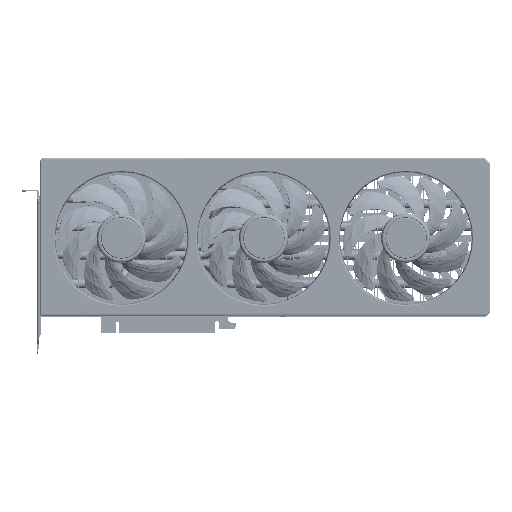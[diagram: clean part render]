
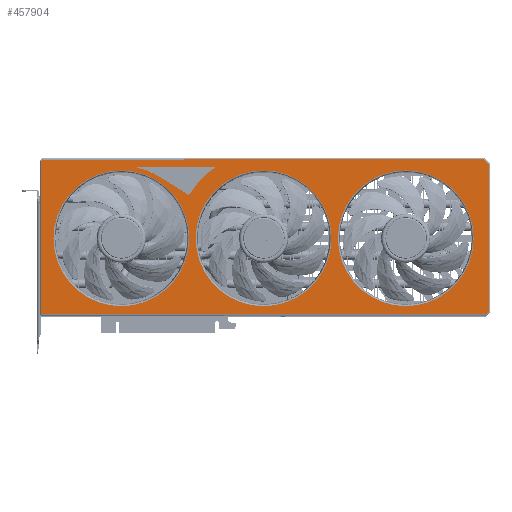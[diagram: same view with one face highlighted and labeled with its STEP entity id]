
A CAD part, top view. The second image highlights one B-rep face of the part: STEP entity #457904.
In plain terms, the highlighted planar face has unit normal (0, 0, 1).
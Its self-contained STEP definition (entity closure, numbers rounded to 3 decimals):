
#445195=DIRECTION('',(0.,1.,0.));
#445196=VECTOR('',#445195,324.994);
#445197=CARTESIAN_POINT('',(-58.2,-162.497,33.7));
#445198=LINE('',#445197,#445196);
#445202=DIRECTION('',(-0.707,-0.707,0.));
#445203=VECTOR('',#445202,5.237);
#445204=CARTESIAN_POINT('',(-54.497,166.2,33.7));
#445205=LINE('',#445204,#445203);
#445209=DIRECTION('',(-1.,0.,0.));
#445210=VECTOR('',#445209,108.994);
#445211=CARTESIAN_POINT('',(54.497,166.2,33.7));
#445212=LINE('',#445211,#445210);
#445216=DIRECTION('',(-0.707,0.707,0.));
#445217=VECTOR('',#445216,2.125);
#445218=CARTESIAN_POINT('',(56.,164.697,33.7));
#445219=LINE('',#445218,#445217);
#445223=DIRECTION('',(0.,1.,0.));
#445224=VECTOR('',#445223,328.697);
#445225=CARTESIAN_POINT('',(56.,-164.,33.7));
#445226=LINE('',#445225,#445224);
#445230=DIRECTION('',(1.,0.,0.));
#445231=VECTOR('',#445230,112.697);
#445232=CARTESIAN_POINT('',(-56.697,-164.,33.7));
#445233=LINE('',#445232,#445231);
#445237=DIRECTION('',(0.707,-0.707,0.));
#445238=VECTOR('',#445237,2.125);
#445239=CARTESIAN_POINT('',(-58.2,-162.497,33.7));
#445240=LINE('',#445239,#445238);
#445244=CARTESIAN_POINT('',(0.,-105.,33.7));
#445245=DIRECTION('',(0.,0.,-1.));
#445246=DIRECTION('',(-1.,0.,0.));
#445247=AXIS2_PLACEMENT_3D('',#445244,#445245,#445246);
#445252=CARTESIAN_POINT('',(0.,-105.,33.7));
#445253=DIRECTION('',(0.,0.,-1.));
#445254=DIRECTION('',(1.,0.,0.));
#445255=AXIS2_PLACEMENT_3D('',#445252,#445253,#445254);
#445260=CARTESIAN_POINT('',(0.,0.,33.7));
#445261=DIRECTION('',(0.,0.,-1.));
#445262=DIRECTION('',(-1.,0.,0.));
#445263=AXIS2_PLACEMENT_3D('',#445260,#445261,#445262);
#445268=CARTESIAN_POINT('',(0.,0.,33.7));
#445269=DIRECTION('',(0.,0.,-1.));
#445270=DIRECTION('',(1.,0.,0.));
#445271=AXIS2_PLACEMENT_3D('',#445268,#445269,#445270);
#445276=CARTESIAN_POINT('',(0.,105.,33.7));
#445277=DIRECTION('',(0.,0.,-1.));
#445278=DIRECTION('',(1.,0.,0.));
#445279=AXIS2_PLACEMENT_3D('',#445276,#445277,#445278);
#445284=CARTESIAN_POINT('',(0.,105.,33.7));
#445285=DIRECTION('',(0.,0.,-1.));
#445286=DIRECTION('',(-1.,0.,0.));
#445287=AXIS2_PLACEMENT_3D('',#445284,#445285,#445286);
#445292=CARTESIAN_POINT('',(-33.048,-55.267,33.7));
#445293=DIRECTION('',(0.,0.,-1.));
#445294=DIRECTION('',(0.513,0.858,0.));
#445295=AXIS2_PLACEMENT_3D('',#445292,#445293,#445294);
#456105=DIRECTION('',(0.,1.,0.));
#456106=VECTOR('',#456105,57.291);
#456107=CARTESIAN_POINT('',(-52.85,-93.47,33.7));
#456108=LINE('',#456107,#456106);
#456126=CARTESIAN_POINT('',(-52.55,-93.47,
33.7));
#456127=DIRECTION('',(0.,0.,-1.));
#456128=DIRECTION('',(0.977,-0.214,0.));
#456129=AXIS2_PLACEMENT_3D('',#456126,#456127,#456128);
#456164=CARTESIAN_POINT('',(0.,-105.,33.7));
#456165=DIRECTION('',(0.,0.,1.));
#456166=DIRECTION('',(-0.848,0.53,0.));
#456167=AXIS2_PLACEMENT_3D('',#456164,#456165,#456166);
#456172=DIRECTION('',(-0.53,-0.848,0.));
#456173=VECTOR('',#456172,24.633);
#456174=CARTESIAN_POINT('',(-32.29,-55.742,33.7));
#456175=LINE('',#456174,#456173);
#456207=CARTESIAN_POINT('',(0.,0.,33.7));
#456208=DIRECTION('',(0.,0.,1.));
#456209=DIRECTION('',(-0.824,-0.567,0.));
#456210=AXIS2_PLACEMENT_3D('',#456207,#456208,#456209);
#456231=CARTESIAN_POINT('',(-52.55,-36.179,
33.7));
#456232=DIRECTION('',(0.,0.,-1.));
#456233=DIRECTION('',(-1.,0.,0.));
#456234=AXIS2_PLACEMENT_3D('',#456231,#456232,#456233);
#456432=CARTESIAN_POINT('',(-32.589,-54.5,33.7));
#456433=CARTESIAN_POINT('',(-32.29,-55.742,33.7));
#456434=VERTEX_POINT('',#456432);
#456435=VERTEX_POINT('',#456433);
#456441=CARTESIAN_POINT('',(-45.355,-76.624,33.7));
#456443=VERTEX_POINT('',#456441);
#457396=CARTESIAN_POINT('',(-54.497,166.2,33.7));
#457397=CARTESIAN_POINT('',(-58.2,162.497,33.7));
#457398=VERTEX_POINT('',#457396);
#457399=VERTEX_POINT('',#457397);
#457404=CARTESIAN_POINT('',(54.497,166.2,33.7));
#457405=VERTEX_POINT('',#457404);
#457410=CARTESIAN_POINT('',(56.,164.697,33.7));
#457411=VERTEX_POINT('',#457410);
#457416=CARTESIAN_POINT('',(56.,-164.,33.7));
#457417=VERTEX_POINT('',#457416);
#457422=CARTESIAN_POINT('',(-56.697,-164.,33.7));
#457423=VERTEX_POINT('',#457422);
#457428=CARTESIAN_POINT('',(-58.2,-162.497,33.7));
#457429=VERTEX_POINT('',#457428);
#457434=CARTESIAN_POINT('',(-50.133,-105.,33.7));
#457435=CARTESIAN_POINT('',(50.133,-105.,33.7));
#457436=VERTEX_POINT('',#457434);
#457437=VERTEX_POINT('',#457435);
#457442=CARTESIAN_POINT('',(-50.133,0.,33.7));
#457443=CARTESIAN_POINT('',(50.133,0.,33.7));
#457444=VERTEX_POINT('',#457442);
#457445=VERTEX_POINT('',#457443);
#457450=CARTESIAN_POINT('',(50.133,105.,33.7));
#457451=CARTESIAN_POINT('',(-50.133,105.,33.7));
#457452=VERTEX_POINT('',#457450);
#457453=VERTEX_POINT('',#457451);
#457521=CARTESIAN_POINT('',(-52.257,-93.534,33.7));
#457523=VERTEX_POINT('',#457521);
#457525=CARTESIAN_POINT('',(-52.85,-93.47,33.7));
#457527=VERTEX_POINT('',#457525);
#457530=CARTESIAN_POINT('',(-52.303,-36.009,33.7));
#457532=VERTEX_POINT('',#457530);
#457534=CARTESIAN_POINT('',(-52.85,-36.179,33.7));
#457536=VERTEX_POINT('',#457534);
#457849=CARTESIAN_POINT('',(-57.,-165.,33.7));
#457850=DIRECTION('',(0.,0.,1.));
#457851=DIRECTION('',(0.,1.,0.));
#457852=AXIS2_PLACEMENT_3D('',#457849,#457850,#457851);
#457853=PLANE('',#457852);
#457855=ORIENTED_EDGE('',*,*,#457854,.T.);
#457857=ORIENTED_EDGE('',*,*,#457856,.F.);
#457859=ORIENTED_EDGE('',*,*,#457858,.F.);
#457861=ORIENTED_EDGE('',*,*,#457860,.F.);
#457863=ORIENTED_EDGE('',*,*,#457862,.F.);
#457865=ORIENTED_EDGE('',*,*,#457864,.F.);
#457867=ORIENTED_EDGE('',*,*,#457866,.F.);
#457868=EDGE_LOOP('',(#457855,#457857,#457859,#457861,#457863,#457865,#457867));
#457869=FACE_OUTER_BOUND('',#457868,.F.);
#457871=ORIENTED_EDGE('',*,*,#457870,.F.);
#457873=ORIENTED_EDGE('',*,*,#457872,.F.);
#457874=EDGE_LOOP('',(#457871,#457873));
#457875=FACE_BOUND('',#457874,.F.);
#457877=ORIENTED_EDGE('',*,*,#457876,.F.);
#457879=ORIENTED_EDGE('',*,*,#457878,.F.);
#457880=EDGE_LOOP('',(#457877,#457879));
#457881=FACE_BOUND('',#457880,.F.);
#457883=ORIENTED_EDGE('',*,*,#457882,.F.);
#457885=ORIENTED_EDGE('',*,*,#457884,.F.);
#457886=EDGE_LOOP('',(#457883,#457885));
#457887=FACE_BOUND('',#457886,.F.);
#457889=ORIENTED_EDGE('',*,*,#457888,.F.);
#457891=ORIENTED_EDGE('',*,*,#457890,.F.);
#457893=ORIENTED_EDGE('',*,*,#457892,.F.);
#457895=ORIENTED_EDGE('',*,*,#457894,.F.);
#457897=ORIENTED_EDGE('',*,*,#457896,.F.);
#457899=ORIENTED_EDGE('',*,*,#457898,.F.);
#457901=ORIENTED_EDGE('',*,*,#457900,.F.);
#457902=EDGE_LOOP('',(#457889,#457891,#457893,#457895,#457897,#457899,#457901));
#457903=FACE_BOUND('',#457902,.F.);
#445248=CIRCLE('',#445247,50.133);
#445256=CIRCLE('',#445255,50.133);
#445264=CIRCLE('',#445263,50.133);
#445272=CIRCLE('',#445271,50.133);
#445280=CIRCLE('',#445279,50.133);
#445288=CIRCLE('',#445287,50.133);
#445296=CIRCLE('',#445295,0.894);
#456130=CIRCLE('',#456129,0.3);
#456168=CIRCLE('',#456167,53.5);
#456211=CIRCLE('',#456210,63.5);
#456235=CIRCLE('',#456234,0.3);
#457854=EDGE_CURVE('',#457429,#457399,#445198,.T.);
#457856=EDGE_CURVE('',#457398,#457399,#445205,.T.);
#457858=EDGE_CURVE('',#457405,#457398,#445212,.T.);
#457860=EDGE_CURVE('',#457411,#457405,#445219,.T.);
#457862=EDGE_CURVE('',#457417,#457411,#445226,.T.);
#457864=EDGE_CURVE('',#457423,#457417,#445233,.T.);
#457866=EDGE_CURVE('',#457429,#457423,#445240,.T.);
#457870=EDGE_CURVE('',#457436,#457437,#445248,.T.);
#457872=EDGE_CURVE('',#457437,#457436,#445256,.T.);
#457876=EDGE_CURVE('',#457444,#457445,#445264,.T.);
#457878=EDGE_CURVE('',#457445,#457444,#445272,.T.);
#457882=EDGE_CURVE('',#457452,#457453,#445280,.T.);
#457884=EDGE_CURVE('',#457453,#457452,#445288,.T.);
#457888=EDGE_CURVE('',#457532,#456434,#456211,.T.);
#457890=EDGE_CURVE('',#457536,#457532,#456235,.T.);
#457892=EDGE_CURVE('',#457527,#457536,#456108,.T.);
#457894=EDGE_CURVE('',#457523,#457527,#456130,.T.);
#457896=EDGE_CURVE('',#456443,#457523,#456168,.T.);
#457898=EDGE_CURVE('',#456435,#456443,#456175,.T.);
#457900=EDGE_CURVE('',#456434,#456435,#445296,.T.);
#457904=ADVANCED_FACE('',(#457869,#457875,#457881,#457887,#457903),#457853,.T.);
